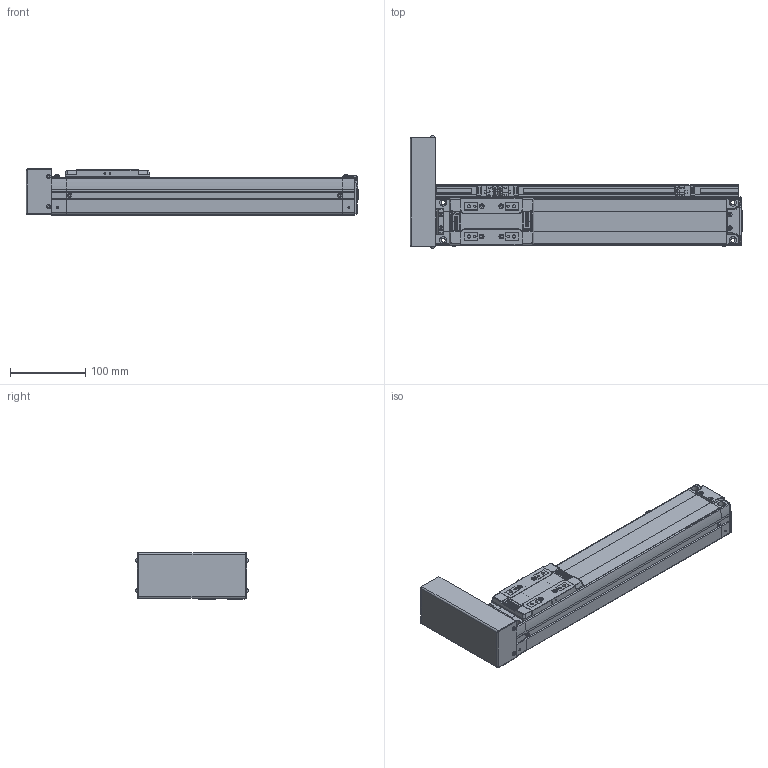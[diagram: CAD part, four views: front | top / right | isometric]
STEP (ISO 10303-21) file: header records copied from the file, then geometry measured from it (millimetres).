
FILE_DESCRIPTION(('STEP AP214'),'1');
FILE_NAME('Z:/Web/3D/SAN65/STP/SAN65ㅁㅁ-250PL+3SL.stp','2012-06-14T04:56:29',(' '),(' '),'Spatial InterOp 3D',' ',' ');
FILE_SCHEMA(('automotive_design'));
Length unit declared in the file: metre
Products named in the file (57): SAN65__-250; BODY-SAN65; REAR-SAN65; RRCV-SAN65; 스크루 : Round - M3.0 x 6.0; FRONT-SAN65; SHAFT-SAN65; RN8 x 0.75; SSFX-SAN65; SLIDE-SAN65; SLCV-SAN65; 스크루 : Countersunk - M3.0 x 6.0; ____202; PL; BTCV-SAN65; BHCS M3 X 6L; 3SL; SRL-16x17-450L; - OT; EE-SX674; SBK-SX674-352; HOME; + OT; DOG; SDG-SAN65; 스크루 : Round - M3.0 x 5.0
Assembly tree (56 placements, depth 4):
  ____202
    SAN65__-250
      BODY-SAN65
      REAR-SAN65
        REAR-SAN65
        RRCV-SAN65
        스크루 : Round - M3.0 x 6.0
        스크루 : Round - M3.0 x 6.0
        스크루 : Round - M3.0 x 6.0
        스크루 : Round - M3.0 x 6.0
        스크루 : Round - M3.0 x 6.0
        스크루 : Round - M3.0 x 6.0
      FRONT-SAN65
        FRONT-SAN65
        SHAFT-SAN65
        RN8 x 0.75
        SSFX-SAN65
        스크루 : Round - M3.0 x 6.0
        스크루 : Round - M3.0 x 6.0
        스크루 : Round - M3.0 x 6.0
        스크루 : Round - M3.0 x 6.0
      SLIDE-SAN65
        SLIDE-SAN65
        SLCV-SAN65
        스크루 : Countersunk - M3.0 x 6.0
        스크루 : Countersunk - M3.0 x 6.0
        스크루 : Countersunk - M3.0 x 6.0
        스크루 : Countersunk - M3.0 x 6.0
    PL
      BTCV-SAN65
      BHCS M3 X 6L
      BHCS M3 X 6L
      BHCS M3 X 6L
      BHCS M3 X 6L
    3SL
      SRL-16x17-450L
      스크루 : Round - M3.0 x 6.0
      스크루 : Round - M3.0 x 6.0
      - OT
        EE-SX674
        SBK-SX674-352
        스크루 : Round - M3.0 x 6.0
        스크루 : Round - M3.0 x 6.0
      HOME
        EE-SX674
        SBK-SX674-352
        스크루 : Round - M3.0 x 6.0
        스크루 : Round - M3.0 x 6.0
      + OT
        EE-SX674
        SBK-SX674-352
        스크루 : Round - M3.0 x 6.0
        스크루 : Round - M3.0 x 6.0
      DOG
        SDG-SAN65
        스크루 : Round - M3.0 x 5.0
        스크루 : Round - M3.0 x 5.0
Bounding box: 440.15 x 149.13 x 61 mm (x, y, z)
Volume: 1637378.2 mm3; surface area: 260026.3 mm2
Topology: 46 solids, 46 shells, 1943 faces, 4952 edges, 3228 vertices
Faces by surface type: plane 1292, cylinder 478, cone 89, sphere 36, bspline 30, torus 15, extrusion 3
Full cylindrical faces by diameter (mm): 0.571 x2, 0.706 x1, 1.727 x2, 2.132 x1, 2.2 x4, 2.5 x15, 2.528 x4, 3 x6, 3.121 x2, 3.3 x4, 3.4 x8, 3.5 x14, 4.2 x24, 4.849 x4, 5 x3, 5.5 x4, 5.987 x2, 6 x6, 6.35 x1, 6.5 x2, 7 x1, 8 x4, 9.5 x4, 13 x1, 15 x1, 19 x1, 26 x1, 38.1 x1
Entity records: 78405 total; most frequent: CARTESIAN_POINT 14965, DIRECTION 9737, ORIENTED_EDGE 9260, EDGE_CURVE 4630, VECTOR 3273, LINE 3270, AXIS2_PLACEMENT_3D 3232, VERTEX_POINT 3168
